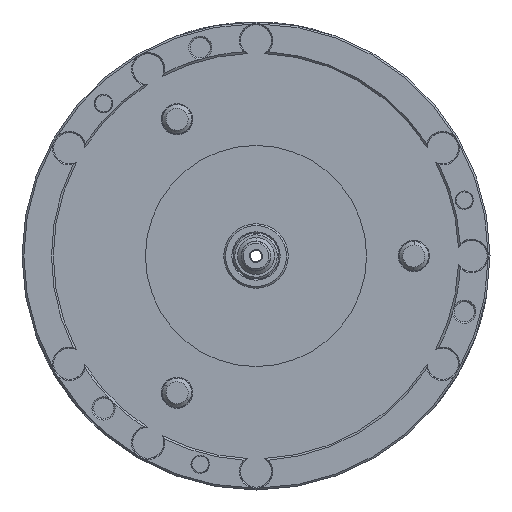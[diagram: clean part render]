
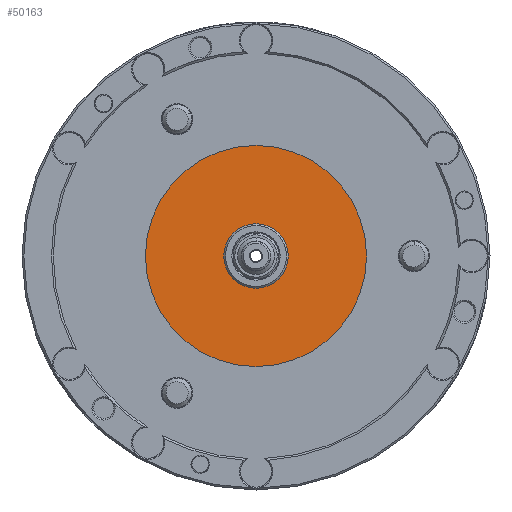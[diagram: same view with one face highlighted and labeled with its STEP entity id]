
A CAD part, left-side view. The second image highlights one B-rep face of the part: STEP entity #50163.
In plain terms, the highlighted planar face has unit normal (-1, 0, 0).
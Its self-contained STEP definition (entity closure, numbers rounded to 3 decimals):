
#1301 = PLANE ( 'NONE',  #30332 ) ;
#1464 = VERTEX_POINT ( 'NONE', #17992 ) ;
#3409 = DIRECTION ( 'NONE',  ( 0., 0., -1. ) ) ;
#4456 = ORIENTED_EDGE ( 'NONE', *, *, #16139, .F. ) ;
#10107 = FACE_OUTER_BOUND ( 'NONE', #12094, .T. ) ;
#10367 = DIRECTION ( 'NONE',  ( 0., 0., 1. ) ) ;
#11550 = ORIENTED_EDGE ( 'NONE', *, *, #24027, .F. ) ;
#12094 = EDGE_LOOP ( 'NONE', ( #11550, #4456 ) ) ;
#12196 = EDGE_CURVE ( 'NONE', #1464, #46146, #48393, .T. ) ;
#14715 = CARTESIAN_POINT ( 'NONE',  ( -103., 60., 0. ) ) ;
#15315 = CARTESIAN_POINT ( 'NONE',  ( -103., 0., 60. ) ) ;
#16139 = EDGE_CURVE ( 'NONE', #50221, #27442, #50194, .T. ) ;
#16458 = CARTESIAN_POINT ( 'NONE',  ( -103., 0., 0. ) ) ;
#17698 = ORIENTED_EDGE ( 'NONE', *, *, #30305, .F. ) ;
#17992 = CARTESIAN_POINT ( 'NONE',  ( -103., -3.039, 17.234 ) ) ;
#20974 = DIRECTION ( 'NONE',  ( 0., 0., -1. ) ) ;
#21746 = CARTESIAN_POINT ( 'NONE',  ( -103., 0., 0. ) ) ;
#24027 = EDGE_CURVE ( 'NONE', #27442, #50221, #52105, .T. ) ;
#26307 = DIRECTION ( 'NONE',  ( 0., 0., -1. ) ) ;
#26831 = CARTESIAN_POINT ( 'NONE',  ( -103., 0., 0. ) ) ;
#27355 = CARTESIAN_POINT ( 'NONE',  ( -103., 3.039, -17.234 ) ) ;
#27442 = VERTEX_POINT ( 'NONE', #51444 ) ;
#30305 = EDGE_CURVE ( 'NONE', #46146, #1464, #47364, .T. ) ;
#30332 = AXIS2_PLACEMENT_3D ( 'NONE', #14715, #37347, #10367 ) ;
#30423 = DIRECTION ( 'NONE',  ( -1., 0., 0. ) ) ;
#30906 = AXIS2_PLACEMENT_3D ( 'NONE', #16458, #47994, #20974 ) ;
#31351 = DIRECTION ( 'NONE',  ( 0., 0., -1. ) ) ;
#35038 = AXIS2_PLACEMENT_3D ( 'NONE', #57397, #30423, #3409 ) ;
#37347 = DIRECTION ( 'NONE',  ( -1., 0., 0. ) ) ;
#46061 = FACE_BOUND ( 'NONE', #49436, .T. ) ;
#46146 = VERTEX_POINT ( 'NONE', #27355 ) ;
#47364 = CIRCLE ( 'NONE', #30906, 17.5 ) ;
#47994 = DIRECTION ( 'NONE',  ( -1., 0., 0. ) ) ;
#48393 = CIRCLE ( 'NONE', #35038, 17.5 ) ;
#49268 = ORIENTED_EDGE ( 'NONE', *, *, #12196, .F. ) ;
#49436 = EDGE_LOOP ( 'NONE', ( #17698, #49268 ) ) ;
#49566 = AXIS2_PLACEMENT_3D ( 'NONE', #26831, #58338, #31351 ) ;
#50163 = ADVANCED_FACE ( 'NONE', ( #10107, #46061 ), #1301, .T. ) ;
#50194 = CIRCLE ( 'NONE', #49566, 60. ) ;
#50221 = VERTEX_POINT ( 'NONE', #15315 ) ;
#51444 = CARTESIAN_POINT ( 'NONE',  ( -103., 0., -60. ) ) ;
#51828 = AXIS2_PLACEMENT_3D ( 'NONE', #21746, #53287, #26307 ) ;
#52105 = CIRCLE ( 'NONE', #51828, 60. ) ;
#53287 = DIRECTION ( 'NONE',  ( 1., 0., 0. ) ) ;
#57397 = CARTESIAN_POINT ( 'NONE',  ( -103., 0., 0. ) ) ;
#58338 = DIRECTION ( 'NONE',  ( 1., 0., 0. ) ) ;
